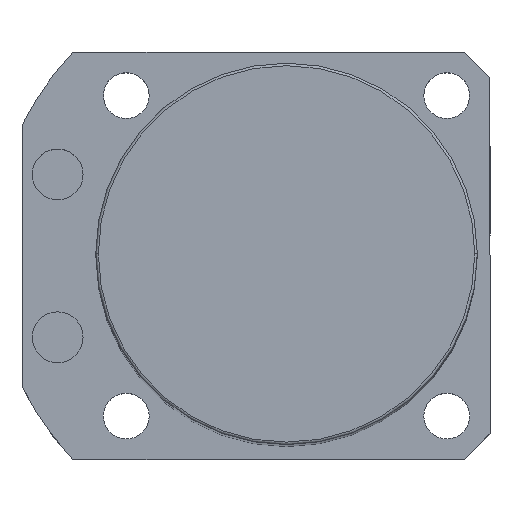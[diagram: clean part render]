
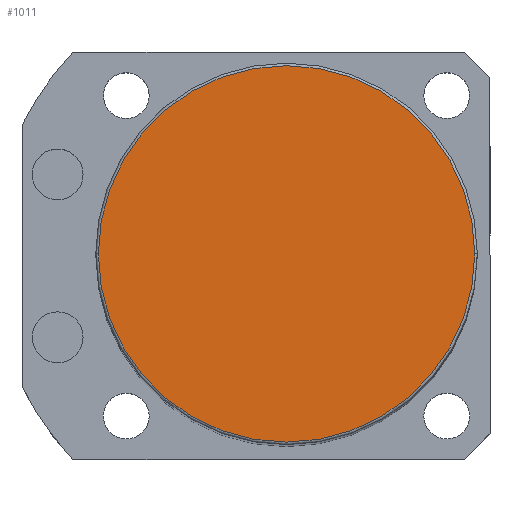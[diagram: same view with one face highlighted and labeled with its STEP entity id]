
A CAD part, top view. The second image highlights one B-rep face of the part: STEP entity #1011.
In plain terms, the highlighted planar face has unit normal (0, 0, 1).
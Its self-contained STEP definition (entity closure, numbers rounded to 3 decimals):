
#136 = AXIS2_PLACEMENT_3D ( 'NONE', #2400, #864, #1782 ) ;
#167 = VERTEX_POINT ( 'NONE', #1305 ) ;
#248 = EDGE_LOOP ( 'NONE', ( #2230, #2449 ) ) ;
#543 = DIRECTION ( 'NONE',  ( 1., 0., 0. ) ) ;
#550 = EDGE_CURVE ( 'NONE', #167, #1250, #1041, .T. ) ;
#627 = EDGE_CURVE ( 'NONE', #1250, #167, #1908, .T. ) ;
#864 = DIRECTION ( 'NONE',  ( 0., 0., 1. ) ) ;
#1011 = ADVANCED_FACE ( 'NONE', ( #1355 ), #1464, .T. ) ;
#1041 = CIRCLE ( 'NONE', #2016, 37. ) ;
#1058 = DIRECTION ( 'NONE',  ( 1., 0., 0. ) ) ;
#1095 = DIRECTION ( 'NONE',  ( 0., 0., 1. ) ) ;
#1250 = VERTEX_POINT ( 'NONE', #1393 ) ;
#1305 = CARTESIAN_POINT ( 'NONE',  ( 37., 0., 235.5 ) ) ;
#1309 = CARTESIAN_POINT ( 'NONE',  ( 0., 0., 235.5 ) ) ;
#1355 = FACE_OUTER_BOUND ( 'NONE', #248, .T. ) ;
#1393 = CARTESIAN_POINT ( 'NONE',  ( -37., 0., 235.5 ) ) ;
#1464 = PLANE ( 'NONE',  #136 ) ;
#1487 = CARTESIAN_POINT ( 'NONE',  ( 0., 0., 235.5 ) ) ;
#1738 = DIRECTION ( 'NONE',  ( 0., 0., 1. ) ) ;
#1782 = DIRECTION ( 'NONE',  ( 1., 0., 0. ) ) ;
#1908 = CIRCLE ( 'NONE', #2136, 37. ) ;
#2016 = AXIS2_PLACEMENT_3D ( 'NONE', #1309, #1738, #1058 ) ;
#2136 = AXIS2_PLACEMENT_3D ( 'NONE', #1487, #1095, #543 ) ;
#2230 = ORIENTED_EDGE ( 'NONE', *, *, #550, .T. ) ;
#2400 = CARTESIAN_POINT ( 'NONE',  ( 0., 0., 235.5 ) ) ;
#2449 = ORIENTED_EDGE ( 'NONE', *, *, #627, .T. ) ;
